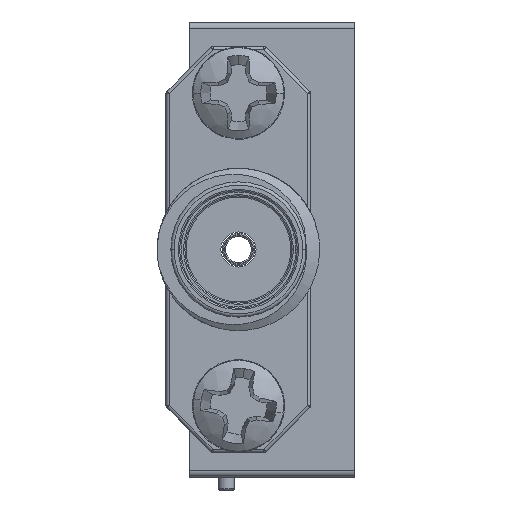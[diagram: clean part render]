
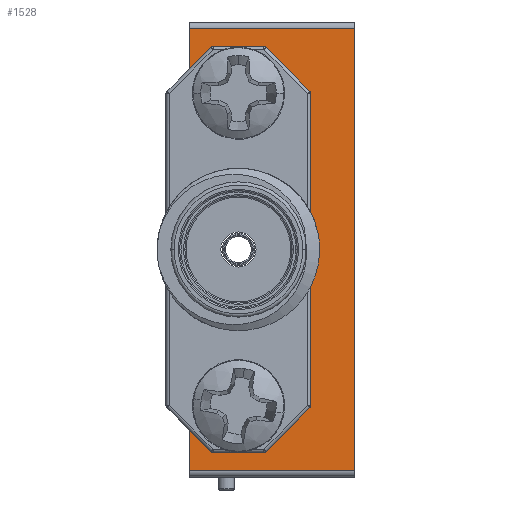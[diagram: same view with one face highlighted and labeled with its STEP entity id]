
A CAD part, left-side view. The second image highlights one B-rep face of the part: STEP entity #1528.
In plain terms, the highlighted planar face has unit normal (-1, 0, 0).
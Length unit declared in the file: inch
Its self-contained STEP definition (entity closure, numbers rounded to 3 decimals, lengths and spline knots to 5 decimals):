
#431 = CARTESIAN_POINT ( 'NONE',  ( 0., -0.178, -0.362 ) ) ;
#572 = LINE ( 'NONE', #1273, #13476 ) ;
#1221 = DIRECTION ( 'NONE',  ( 0., 0., 1. ) ) ;
#1273 = CARTESIAN_POINT ( 'NONE',  ( 0., -0.285, 0.16 ) ) ;
#1528 = ADVANCED_FACE ( 'NONE', ( #1596, #45017, #34887 ), #23154, .F. ) ;
#1539 = CARTESIAN_POINT ( 'NONE',  ( 0., -0.285, -0.372 ) ) ;
#1596 = FACE_BOUND ( 'NONE', #5735, .T. ) ;
#1619 = VECTOR ( 'NONE', #31543, 39.37008 ) ;
#2080 = DIRECTION ( 'NONE',  ( 0., 0., -1. ) ) ;
#2745 = ORIENTED_EDGE ( 'NONE', *, *, #16177, .F. ) ;
#3136 = CARTESIAN_POINT ( 'NONE',  ( 0., -0.106, 0.1035 ) ) ;
#3466 = EDGE_CURVE ( 'NONE', #13182, #29659, #40903, .T. ) ;
#3614 = VECTOR ( 'NONE', #22317, 39.37008 ) ;
#4124 = CIRCLE ( 'NONE', #15590, 0.043 ) ;
#4148 = AXIS2_PLACEMENT_3D ( 'NONE', #22761, #15562, #1221 ) ;
#5645 = DIRECTION ( 'NONE',  ( 1., 0., 0. ) ) ;
#5735 = EDGE_LOOP ( 'NONE', ( #44798, #11999 ) ) ;
#6580 = VECTOR ( 'NONE', #28851, 39.37008 ) ;
#7324 = EDGE_LOOP ( 'NONE', ( #42063, #2745 ) ) ;
#7484 = CARTESIAN_POINT ( 'NONE',  ( 0., -0.285, 0.012 ) ) ;
#8023 = AXIS2_PLACEMENT_3D ( 'NONE', #42116, #26761, #30830 ) ;
#8622 = CARTESIAN_POINT ( 'NONE',  ( 0., -0.106, 0.0605 ) ) ;
#8750 = EDGE_CURVE ( 'NONE', #32139, #10151, #23319, .T. ) ;
#9282 = VERTEX_POINT ( 'NONE', #15694 ) ;
#9524 = CIRCLE ( 'NONE', #44752, 0.043 ) ;
#10151 = VERTEX_POINT ( 'NONE', #25755 ) ;
#10424 = EDGE_CURVE ( 'NONE', #9282, #15790, #18750, .T. ) ;
#10691 = VECTOR ( 'NONE', #19729, 39.37008 ) ;
#11752 = CARTESIAN_POINT ( 'NONE',  ( 0., -0.03, 0.002 ) ) ;
#11999 = ORIENTED_EDGE ( 'NONE', *, *, #19901, .F. ) ;
#12142 = LINE ( 'NONE', #431, #24179 ) ;
#12901 = VERTEX_POINT ( 'NONE', #28246 ) ;
#13182 = VERTEX_POINT ( 'NONE', #32985 ) ;
#13476 = VECTOR ( 'NONE', #37456, 39.37008 ) ;
#13567 = EDGE_CURVE ( 'NONE', #13182, #12901, #572, .T. ) ;
#13839 = VERTEX_POINT ( 'NONE', #25203 ) ;
#14149 = ORIENTED_EDGE ( 'NONE', *, *, #13567, .T. ) ;
#15038 = ORIENTED_EDGE ( 'NONE', *, *, #3466, .F. ) ;
#15454 = EDGE_CURVE ( 'NONE', #13839, #29659, #35615, .T. ) ;
#15562 = DIRECTION ( 'NONE',  ( -1., 0., 0. ) ) ;
#15590 = AXIS2_PLACEMENT_3D ( 'NONE', #8622, #34502, #23244 ) ;
#15694 = CARTESIAN_POINT ( 'NONE',  ( 0., -0.03, 0.012 ) ) ;
#15790 = VERTEX_POINT ( 'NONE', #37908 ) ;
#16177 = EDGE_CURVE ( 'NONE', #27699, #22630, #9524, .T. ) ;
#17279 = EDGE_CURVE ( 'NONE', #32139, #15790, #12142, .T. ) ;
#17825 = LINE ( 'NONE', #20946, #6580 ) ;
#18320 = EDGE_CURVE ( 'NONE', #9282, #12901, #37191, .T. ) ;
#18750 = LINE ( 'NONE', #7484, #38755 ) ;
#19729 = DIRECTION ( 'NONE',  ( 0., 1., 0. ) ) ;
#19901 = EDGE_CURVE ( 'NONE', #42633, #22134, #22566, .T. ) ;
#19922 = ORIENTED_EDGE ( 'NONE', *, *, #18320, .F. ) ;
#20582 = EDGE_CURVE ( 'NONE', #13839, #10151, #17825, .T. ) ;
#20946 = CARTESIAN_POINT ( 'NONE',  ( 0., -0.03, -0.53 ) ) ;
#22134 = VERTEX_POINT ( 'NONE', #25550 ) ;
#22317 = DIRECTION ( 'NONE',  ( 0., 0., 1. ) ) ;
#22566 = CIRCLE ( 'NONE', #8023, 0.043 ) ;
#22630 = VERTEX_POINT ( 'NONE', #3136 ) ;
#22761 = CARTESIAN_POINT ( 'NONE',  ( 0., -0.106, -0.4205 ) ) ;
#23154 = PLANE ( 'NONE',  #34320 ) ;
#23244 = DIRECTION ( 'NONE',  ( 0., 0., 1. ) ) ;
#23319 = LINE ( 'NONE', #1539, #10691 ) ;
#24179 = VECTOR ( 'NONE', #26757, 39.37008 ) ;
#24915 = DIRECTION ( 'NONE',  ( -1., 0., 0. ) ) ;
#25159 = DIRECTION ( 'NONE',  ( 0., 0., 1. ) ) ;
#25203 = CARTESIAN_POINT ( 'NONE',  ( 0., -0.03, -0.52 ) ) ;
#25421 = ORIENTED_EDGE ( 'NONE', *, *, #15454, .T. ) ;
#25550 = CARTESIAN_POINT ( 'NONE',  ( 0., -0.106, -0.3775 ) ) ;
#25755 = CARTESIAN_POINT ( 'NONE',  ( 0., -0.03, -0.372 ) ) ;
#26757 = DIRECTION ( 'NONE',  ( 0., 0., 1. ) ) ;
#26761 = DIRECTION ( 'NONE',  ( -1., 0., 0. ) ) ;
#27699 = VERTEX_POINT ( 'NONE', #45799 ) ;
#28246 = CARTESIAN_POINT ( 'NONE',  ( 0., -0.03, 0.16 ) ) ;
#28851 = DIRECTION ( 'NONE',  ( 0., 0., 1. ) ) ;
#29374 = ORIENTED_EDGE ( 'NONE', *, *, #8750, .T. ) ;
#29617 = CARTESIAN_POINT ( 'NONE',  ( 0., -0.285, 0.17 ) ) ;
#29659 = VERTEX_POINT ( 'NONE', #30685 ) ;
#29713 = EDGE_CURVE ( 'NONE', #22134, #42633, #45528, .T. ) ;
#29755 = DIRECTION ( 'NONE',  ( 0., -1., 0. ) ) ;
#30685 = CARTESIAN_POINT ( 'NONE',  ( 0., -0.285, -0.52 ) ) ;
#30830 = DIRECTION ( 'NONE',  ( 0., 0., 1. ) ) ;
#31543 = DIRECTION ( 'NONE',  ( 0., -1., 0. ) ) ;
#32139 = VERTEX_POINT ( 'NONE', #37442 ) ;
#32985 = CARTESIAN_POINT ( 'NONE',  ( 0., -0.285, 0.16 ) ) ;
#34320 = AXIS2_PLACEMENT_3D ( 'NONE', #34639, #5645, #2080 ) ;
#34446 = ORIENTED_EDGE ( 'NONE', *, *, #20582, .F. ) ;
#34502 = DIRECTION ( 'NONE',  ( -1., 0., 0. ) ) ;
#34639 = CARTESIAN_POINT ( 'NONE',  ( 0., -0.285, 0.17 ) ) ;
#34887 = FACE_OUTER_BOUND ( 'NONE', #47443, .T. ) ;
#35615 = LINE ( 'NONE', #39221, #1619 ) ;
#36915 = CARTESIAN_POINT ( 'NONE',  ( 0., -0.106, 0.0605 ) ) ;
#37191 = LINE ( 'NONE', #11752, #3614 ) ;
#37442 = CARTESIAN_POINT ( 'NONE',  ( 0., -0.178, -0.372 ) ) ;
#37456 = DIRECTION ( 'NONE',  ( 0., 1., 0. ) ) ;
#37532 = DIRECTION ( 'NONE',  ( 0., 0., -1. ) ) ;
#37908 = CARTESIAN_POINT ( 'NONE',  ( 0., -0.178, 0.012 ) ) ;
#37923 = CARTESIAN_POINT ( 'NONE',  ( 0., -0.106, -0.4635 ) ) ;
#38755 = VECTOR ( 'NONE', #29755, 39.37008 ) ;
#39221 = CARTESIAN_POINT ( 'NONE',  ( 0., -0.285, -0.52 ) ) ;
#40903 = LINE ( 'NONE', #29617, #42458 ) ;
#42063 = ORIENTED_EDGE ( 'NONE', *, *, #46311, .F. ) ;
#42116 = CARTESIAN_POINT ( 'NONE',  ( 0., -0.106, -0.4205 ) ) ;
#42458 = VECTOR ( 'NONE', #37532, 39.37008 ) ;
#42565 = ORIENTED_EDGE ( 'NONE', *, *, #10424, .T. ) ;
#42633 = VERTEX_POINT ( 'NONE', #37923 ) ;
#44752 = AXIS2_PLACEMENT_3D ( 'NONE', #36915, #24915, #25159 ) ;
#44798 = ORIENTED_EDGE ( 'NONE', *, *, #29713, .F. ) ;
#45017 = FACE_BOUND ( 'NONE', #7324, .T. ) ;
#45528 = CIRCLE ( 'NONE', #4148, 0.043 ) ;
#45761 = ORIENTED_EDGE ( 'NONE', *, *, #17279, .F. ) ;
#45799 = CARTESIAN_POINT ( 'NONE',  ( 0., -0.106, 0.0175 ) ) ;
#46311 = EDGE_CURVE ( 'NONE', #22630, #27699, #4124, .T. ) ;
#47443 = EDGE_LOOP ( 'NONE', ( #45761, #29374, #34446, #25421, #15038, #14149, #19922, #42565 ) ) ;
